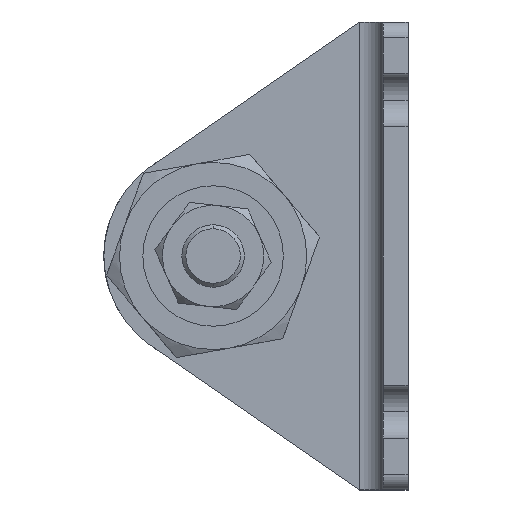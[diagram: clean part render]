
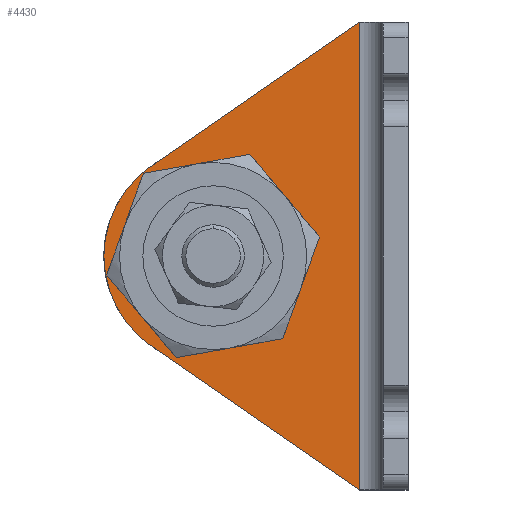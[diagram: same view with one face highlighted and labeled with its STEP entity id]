
A CAD part, left-side view. The second image highlights one B-rep face of the part: STEP entity #4430.
In plain terms, the highlighted planar face has unit normal (-1, 0, 0) as drawn and (1, 0, 0) by its records, which use the part's own axes.
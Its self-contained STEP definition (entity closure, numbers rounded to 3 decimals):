
#151 = DIRECTION ( 'NONE',  ( 0., 1., 0. ) ) ;
#167 = VERTEX_POINT ( 'NONE', #2706 ) ;
#186 = CIRCLE ( 'NONE', #4209, 9.5 ) ;
#220 = CARTESIAN_POINT ( 'NONE',  ( 3.2, 3.2, -60. ) ) ;
#268 = LINE ( 'NONE', #4724, #5227 ) ;
#272 = VERTEX_POINT ( 'NONE', #2365 ) ;
#405 = FACE_OUTER_BOUND ( 'NONE', #5367, .T. ) ;
#645 = VECTOR ( 'NONE', #1516, 1000. ) ;
#674 = EDGE_CURVE ( 'NONE', #167, #3488, #5416, .T. ) ;
#798 = EDGE_CURVE ( 'NONE', #3152, #3488, #268, .T. ) ;
#826 = CARTESIAN_POINT ( 'NONE',  ( 3.2, 25., -30. ) ) ;
#893 = ORIENTED_EDGE ( 'NONE', *, *, #2463, .F. ) ;
#992 = DIRECTION ( 'NONE',  ( 0., 1., 0. ) ) ;
#1094 = VERTEX_POINT ( 'NONE', #3206 ) ;
#1100 = ORIENTED_EDGE ( 'NONE', *, *, #2575, .T. ) ;
#1425 = CARTESIAN_POINT ( 'NONE',  ( 3.2, 25., -30. ) ) ;
#1516 = DIRECTION ( 'NONE',  ( 0., 0.823, 0.568 ) ) ;
#1566 = CARTESIAN_POINT ( 'NONE',  ( 3.2, 25., -30. ) ) ;
#1623 = CARTESIAN_POINT ( 'NONE',  ( 3.2, 15.5, -30. ) ) ;
#1633 = DIRECTION ( 'NONE',  ( 0., 1., 0. ) ) ;
#1662 = CARTESIAN_POINT ( 'NONE',  ( 3.2, 6.2, -60. ) ) ;
#1680 = CARTESIAN_POINT ( 'NONE',  ( 3.2, 4.169, -61.403 ) ) ;
#1713 = AXIS2_PLACEMENT_3D ( 'NONE', #826, #5245, #3015 ) ;
#1832 = DIRECTION ( 'NONE',  ( 1., 0., 0. ) ) ;
#1875 = ORIENTED_EDGE ( 'NONE', *, *, #1884, .F. ) ;
#1884 = EDGE_CURVE ( 'NONE', #5147, #2538, #3862, .T. ) ;
#1896 = PLANE ( 'NONE',  #4965 ) ;
#1944 = DIRECTION ( 'NONE',  ( 1., 0., 0. ) ) ;
#2044 = DIRECTION ( 'NONE',  ( 0., 0.823, -0.568 ) ) ;
#2065 = AXIS2_PLACEMENT_3D ( 'NONE', #1425, #1944, #992 ) ;
#2111 = EDGE_CURVE ( 'NONE', #1094, #272, #4004, .T. ) ;
#2118 = DIRECTION ( 'NONE',  ( 0., 0., -1. ) ) ;
#2365 = CARTESIAN_POINT ( 'NONE',  ( 3.2, 32.956, -41.519 ) ) ;
#2416 = ORIENTED_EDGE ( 'NONE', *, *, #674, .T. ) ;
#2461 = ORIENTED_EDGE ( 'NONE', *, *, #4810, .T. ) ;
#2463 = EDGE_CURVE ( 'NONE', #2538, #5147, #186, .T. ) ;
#2538 = VERTEX_POINT ( 'NONE', #4077 ) ;
#2575 = EDGE_CURVE ( 'NONE', #3152, #1094, #3183, .T. ) ;
#2706 = CARTESIAN_POINT ( 'NONE',  ( 3.2, 39., -30. ) ) ;
#2731 = DIRECTION ( 'NONE',  ( 1., 0., 0. ) ) ;
#2791 = FACE_BOUND ( 'NONE', #5358, .T. ) ;
#3015 = DIRECTION ( 'NONE',  ( 0., 1., 0. ) ) ;
#3063 = VECTOR ( 'NONE', #2118, 1000. ) ;
#3152 = VERTEX_POINT ( 'NONE', #5002 ) ;
#3183 = LINE ( 'NONE', #1662, #3063 ) ;
#3206 = CARTESIAN_POINT ( 'NONE',  ( 3.2, 6.2, -60. ) ) ;
#3336 = DIRECTION ( 'NONE',  ( 1., 0., 0. ) ) ;
#3461 = DIRECTION ( 'NONE',  ( 0., 1., 0. ) ) ;
#3488 = VERTEX_POINT ( 'NONE', #3922 ) ;
#3793 = AXIS2_PLACEMENT_3D ( 'NONE', #3994, #1832, #3461 ) ;
#3862 = CIRCLE ( 'NONE', #1713, 9.5 ) ;
#3922 = CARTESIAN_POINT ( 'NONE',  ( 3.2, 32.956, -18.481 ) ) ;
#3994 = CARTESIAN_POINT ( 'NONE',  ( 3.2, 25., -30. ) ) ;
#4004 = LINE ( 'NONE', #1680, #645 ) ;
#4077 = CARTESIAN_POINT ( 'NONE',  ( 3.2, 34.5, -30. ) ) ;
#4209 = AXIS2_PLACEMENT_3D ( 'NONE', #1566, #2731, #151 ) ;
#4430 = ADVANCED_FACE ( 'NONE', ( #2791, #405 ), #1896, .T. ) ;
#4724 = CARTESIAN_POINT ( 'NONE',  ( 3.2, 32.226, -17.976 ) ) ;
#4779 = CIRCLE ( 'NONE', #3793, 14. ) ;
#4788 = ORIENTED_EDGE ( 'NONE', *, *, #798, .F. ) ;
#4810 = EDGE_CURVE ( 'NONE', #272, #167, #4779, .T. ) ;
#4965 = AXIS2_PLACEMENT_3D ( 'NONE', #220, #3336, #1633 ) ;
#5002 = CARTESIAN_POINT ( 'NONE',  ( 3.2, 6.2, 0. ) ) ;
#5147 = VERTEX_POINT ( 'NONE', #1623 ) ;
#5227 = VECTOR ( 'NONE', #2044, 1000. ) ;
#5245 = DIRECTION ( 'NONE',  ( 1., 0., 0. ) ) ;
#5358 = EDGE_LOOP ( 'NONE', ( #893, #1875 ) ) ;
#5367 = EDGE_LOOP ( 'NONE', ( #5478, #2461, #2416, #4788, #1100 ) ) ;
#5416 = CIRCLE ( 'NONE', #2065, 14. ) ;
#5478 = ORIENTED_EDGE ( 'NONE', *, *, #2111, .T. ) ;
